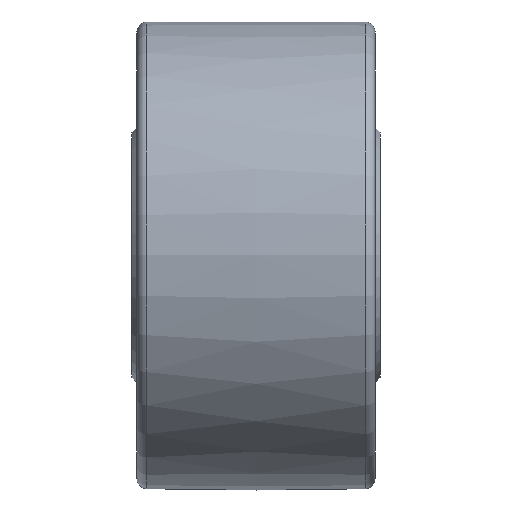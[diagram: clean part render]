
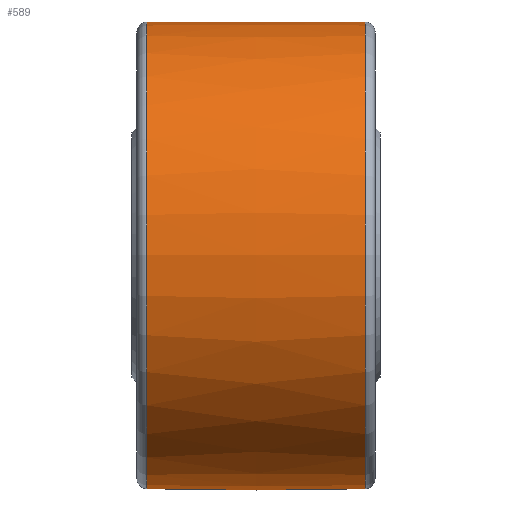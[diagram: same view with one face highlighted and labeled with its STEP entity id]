
A CAD part, front view. The second image highlights one B-rep face of the part: STEP entity #589.
In plain terms, the highlighted free-form (B-spline) face has degree [2, 2] with [3, 9] control points.
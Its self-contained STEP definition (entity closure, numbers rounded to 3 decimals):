
#139=(
BOUNDED_CURVE()
B_SPLINE_CURVE(2,(#1040,#1041,#1042),.UNSPECIFIED.,.F.,.F.)
B_SPLINE_CURVE_WITH_KNOTS((3,3),(-0.022,0.022),
 .UNSPECIFIED.)
CURVE()
GEOMETRIC_REPRESENTATION_ITEM()
RATIONAL_B_SPLINE_CURVE((1.,1.,1.))
REPRESENTATION_ITEM('')
);
#140=(
BOUNDED_SURFACE()
B_SPLINE_SURFACE(2,2,((#1009,#1010,#1011,#1012,#1013,#1014,#1015,#1016,
#1017),(#1018,#1019,#1020,#1021,#1022,#1023,#1024,#1025,#1026),(#1027,#1028,
#1029,#1030,#1031,#1032,#1033,#1034,#1035)),.UNSPECIFIED.,.F.,.T.,.F.)
B_SPLINE_SURFACE_WITH_KNOTS((3,3),(3,2,2,2,3),(-0.022,0.022),
(-3.142,-1.571,0.,1.571,3.142),
 .UNSPECIFIED.)
GEOMETRIC_REPRESENTATION_ITEM()
RATIONAL_B_SPLINE_SURFACE(((1.,0.707,1.,0.707,1.,
0.707,1.,0.707,1.),(1.,0.707,
1.,0.707,1.,0.707,
1.,0.707,1.),(1.,0.707,
1.,0.707,1.,0.707,1.,0.707,1.)))
REPRESENTATION_ITEM('')
SURFACE()
);
#188=FACE_OUTER_BOUND('',#238,.T.);
#238=EDGE_LOOP('',(#485,#486,#487,#488,#489,#490));
#332=CIRCLE('',#647,23.523);
#333=CIRCLE('',#648,23.523);
#334=CIRCLE('',#649,23.523);
#335=CIRCLE('',#650,23.523);
#382=VERTEX_POINT('',#1005);
#383=VERTEX_POINT('',#1006);
#384=VERTEX_POINT('',#1036);
#385=VERTEX_POINT('',#1037);
#432=EDGE_CURVE('',#382,#383,#332,.T.);
#433=EDGE_CURVE('',#383,#382,#333,.T.);
#434=EDGE_CURVE('',#384,#385,#334,.T.);
#435=EDGE_CURVE('',#385,#384,#335,.T.);
#436=EDGE_CURVE('',#385,#383,#139,.T.);
#485=ORIENTED_EDGE('',*,*,#434,.F.);
#486=ORIENTED_EDGE('',*,*,#435,.F.);
#487=ORIENTED_EDGE('',*,*,#436,.T.);
#488=ORIENTED_EDGE('',*,*,#432,.F.);
#489=ORIENTED_EDGE('',*,*,#433,.F.);
#490=ORIENTED_EDGE('',*,*,#436,.F.);
#589=ADVANCED_FACE('',(#188),#140,.F.);
#647=AXIS2_PLACEMENT_3D('',#1007,#769,#770);
#648=AXIS2_PLACEMENT_3D('',#1008,#771,#772);
#649=AXIS2_PLACEMENT_3D('',#1038,#773,#774);
#650=AXIS2_PLACEMENT_3D('',#1039,#775,#776);
#769=DIRECTION('center_axis',(-1.,0.,0.));
#770=DIRECTION('ref_axis',(0.,-1.,0.));
#771=DIRECTION('center_axis',(-1.,0.,0.));
#772=DIRECTION('ref_axis',(0.,-1.,0.));
#773=DIRECTION('center_axis',(1.,0.,0.));
#774=DIRECTION('ref_axis',(0.,-1.,0.));
#775=DIRECTION('center_axis',(1.,0.,0.));
#776=DIRECTION('ref_axis',(0.,-1.,0.));
#1005=CARTESIAN_POINT('',(-11.022,23.523,0.));
#1006=CARTESIAN_POINT('',(-11.022,0.,23.523));
#1007=CARTESIAN_POINT('Origin',(-11.022,0.,
0.));
#1008=CARTESIAN_POINT('Origin',(-11.022,0.,
0.));
#1009=CARTESIAN_POINT('Ctrl Pts',(-11.022,0.,
23.523));
#1010=CARTESIAN_POINT('Ctrl Pts',(-11.022,-23.523,23.523));
#1011=CARTESIAN_POINT('Ctrl Pts',(-11.022,-23.523,0.));
#1012=CARTESIAN_POINT('Ctrl Pts',(-11.022,-23.523,-23.523));
#1013=CARTESIAN_POINT('Ctrl Pts',(-11.022,0.,
-23.523));
#1014=CARTESIAN_POINT('Ctrl Pts',(-11.022,23.523,-23.523));
#1015=CARTESIAN_POINT('Ctrl Pts',(-11.022,23.523,0.));
#1016=CARTESIAN_POINT('Ctrl Pts',(-11.022,23.523,23.523));
#1017=CARTESIAN_POINT('Ctrl Pts',(-11.022,0.,
23.523));
#1018=CARTESIAN_POINT('Ctrl Pts',(0.,0.,
23.766));
#1019=CARTESIAN_POINT('Ctrl Pts',(0.,-23.766,
23.766));
#1020=CARTESIAN_POINT('Ctrl Pts',(0.,-23.766,
0.));
#1021=CARTESIAN_POINT('Ctrl Pts',(0.,-23.766,
-23.766));
#1022=CARTESIAN_POINT('Ctrl Pts',(0.,0.,
-23.766));
#1023=CARTESIAN_POINT('Ctrl Pts',(0.,23.766,
-23.766));
#1024=CARTESIAN_POINT('Ctrl Pts',(0.,23.766,
0.));
#1025=CARTESIAN_POINT('Ctrl Pts',(0.,23.766,
23.766));
#1026=CARTESIAN_POINT('Ctrl Pts',(0.,0.,
23.766));
#1027=CARTESIAN_POINT('Ctrl Pts',(11.022,0.,
23.523));
#1028=CARTESIAN_POINT('Ctrl Pts',(11.022,-23.523,23.523));
#1029=CARTESIAN_POINT('Ctrl Pts',(11.022,-23.523,0.));
#1030=CARTESIAN_POINT('Ctrl Pts',(11.022,-23.523,-23.523));
#1031=CARTESIAN_POINT('Ctrl Pts',(11.022,0.,
-23.523));
#1032=CARTESIAN_POINT('Ctrl Pts',(11.022,23.523,-23.523));
#1033=CARTESIAN_POINT('Ctrl Pts',(11.022,23.523,0.));
#1034=CARTESIAN_POINT('Ctrl Pts',(11.022,23.523,23.523));
#1035=CARTESIAN_POINT('Ctrl Pts',(11.022,0.,
23.523));
#1036=CARTESIAN_POINT('',(11.022,23.523,0.));
#1037=CARTESIAN_POINT('',(11.022,0.,23.523));
#1038=CARTESIAN_POINT('Origin',(11.022,0.,0.));
#1039=CARTESIAN_POINT('Origin',(11.022,0.,0.));
#1040=CARTESIAN_POINT('Ctrl Pts',(11.022,0.,
23.523));
#1041=CARTESIAN_POINT('Ctrl Pts',(0.,0.,
23.766));
#1042=CARTESIAN_POINT('Ctrl Pts',(-11.022,0.,
23.523));
